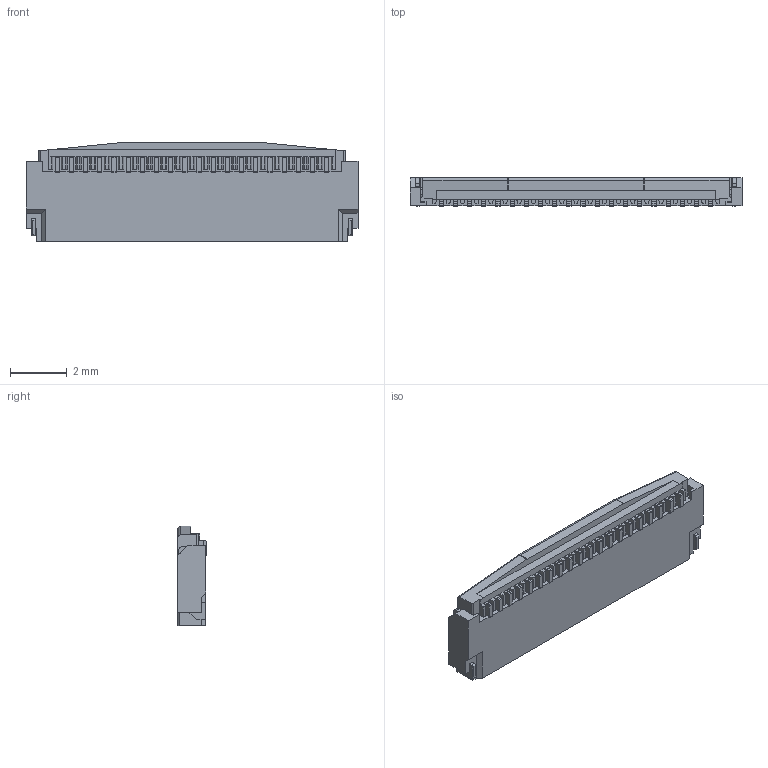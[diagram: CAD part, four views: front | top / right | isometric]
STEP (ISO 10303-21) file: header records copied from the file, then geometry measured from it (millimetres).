
FILE_DESCRIPTION (( 'STEP AP203' ), '1' );
FILE_NAME ('20542-020E-01C ACT CLOSE STEP R1 ALL.STEP', '2013-03-07T07:46:37', ( '' ), ( '' ), 'SwSTEP 2.0', 'SolidWorks 2011', '' );
FILE_SCHEMA (( 'CONFIG_CONTROL_DESIGN' ));
Length unit declared in the file: millimetre
Products named in the file (1): 20542-020E-01C ACT CLOSE STEP R1 ALL
Bounding box: 11.7 x 1 x 3.5 mm (x, y, z)
Volume: 34.3 mm3; surface area: 119 mm2
Topology: 1 solids, 1 shells, 457 faces, 1439 edges, 942 vertices
Faces by surface type: plane 364, cylinder 91, sphere 2
Entity records: 15864 total; most frequent: ORIENTED_EDGE 2874, CARTESIAN_POINT 2855, DIRECTION 2527, EDGE_CURVE 1437, LINE 1251, VECTOR 1251, VERTEX_POINT 942, AXIS2_PLACEMENT_3D 638
